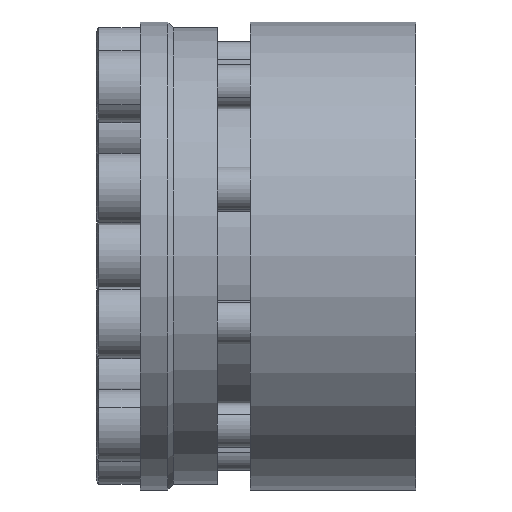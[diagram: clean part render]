
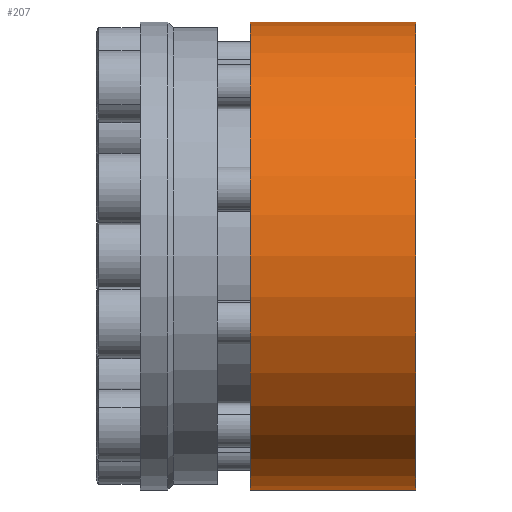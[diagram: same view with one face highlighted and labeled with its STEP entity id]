
A CAD part, front view. The second image highlights one B-rep face of the part: STEP entity #207.
In plain terms, the highlighted cylindrical face has radius 42.5 mm (diameter 85 mm), a partial arc.
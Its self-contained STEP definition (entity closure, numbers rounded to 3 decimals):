
#184 = ORIENTED_EDGE ( 'NONE', *, *, #5627, .T. ) ;
#185 = ORIENTED_EDGE ( 'NONE', *, *, #186, .F. ) ;
#186 = EDGE_CURVE ( 'NONE', #5624, #5629, #2409, .T. ) ;
#207 = ADVANCED_FACE ( 'NONE', ( #2435 ), #2434, .T. ) ;
#208 = EDGE_LOOP ( 'NONE', ( #209, #210, #184, #185 ) ) ;
#209 = ORIENTED_EDGE ( 'NONE', *, *, #5622, .F. ) ;
#210 = ORIENTED_EDGE ( 'NONE', *, *, #5675, .T. ) ;
#2405 = DIRECTION ( 'NONE',  ( 0., 0., 1. ) ) ;
#2406 = DIRECTION ( 'NONE',  ( -1., 0., 0. ) ) ;
#2407 = CARTESIAN_POINT ( 'NONE',  ( 20., 0., 0. ) ) ;
#2408 = AXIS2_PLACEMENT_3D ( 'NONE', #2407, #2406, #2405 ) ;
#2409 = CIRCLE ( 'NONE', #2408, 42.5 ) ;
#2429 = DIRECTION ( 'NONE',  ( 0., 0., 1. ) ) ;
#2430 = DIRECTION ( 'NONE',  ( -1., 0., 0. ) ) ;
#2431 = CARTESIAN_POINT ( 'NONE',  ( 0., 0., 0. ) ) ;
#2432 = AXIS2_PLACEMENT_3D ( 'NONE', #2431, #2430, #2429 ) ;
#2434 = CYLINDRICAL_SURFACE ( 'NONE', #2432, 42.5 ) ;
#2435 = FACE_OUTER_BOUND ( 'NONE', #208, .T. ) ;
#5462 = CARTESIAN_POINT ( 'NONE',  ( 20., 0., 42.5 ) ) ;
#5468 = DIRECTION ( 'NONE',  ( -1., 0., 0. ) ) ;
#5469 = VECTOR ( 'NONE', #5468, 1000. ) ;
#5470 = CARTESIAN_POINT ( 'NONE',  ( 0., 0., 42.5 ) ) ;
#5471 = LINE ( 'NONE', #5470, #5469 ) ;
#5472 = CARTESIAN_POINT ( 'NONE',  ( 20., 0., -42.5 ) ) ;
#5473 = DIRECTION ( 'NONE',  ( -1., 0., 0. ) ) ;
#5474 = VECTOR ( 'NONE', #5473, 1000. ) ;
#5475 = CARTESIAN_POINT ( 'NONE',  ( 0., 0., -42.5 ) ) ;
#5480 = LINE ( 'NONE', #5475, #5474 ) ;
#5504 = CARTESIAN_POINT ( 'NONE',  ( 50., 0., -42.5 ) ) ;
#5505 = CARTESIAN_POINT ( 'NONE',  ( 50., 0., 42.5 ) ) ;
#5514 = DIRECTION ( 'NONE',  ( 0., 0., 1. ) ) ;
#5515 = DIRECTION ( 'NONE',  ( -1., 0., 0. ) ) ;
#5516 = CARTESIAN_POINT ( 'NONE',  ( 50., 0., 0. ) ) ;
#5517 = AXIS2_PLACEMENT_3D ( 'NONE', #5516, #5515, #5514 ) ;
#5518 = CIRCLE ( 'NONE', #5517, 42.5 ) ;
#5622 = EDGE_CURVE ( 'NONE', #5638, #5624, #5480, .T. ) ;
#5624 = VERTEX_POINT ( 'NONE', #5472 ) ;
#5627 = EDGE_CURVE ( 'NONE', #5637, #5629, #5471, .T. ) ;
#5629 = VERTEX_POINT ( 'NONE', #5462 ) ;
#5637 = VERTEX_POINT ( 'NONE', #5505 ) ;
#5638 = VERTEX_POINT ( 'NONE', #5504 ) ;
#5675 = EDGE_CURVE ( 'NONE', #5638, #5637, #5518, .T. ) ;
